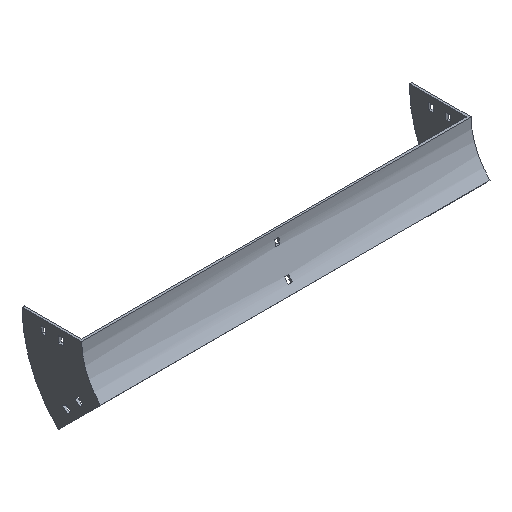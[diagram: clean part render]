
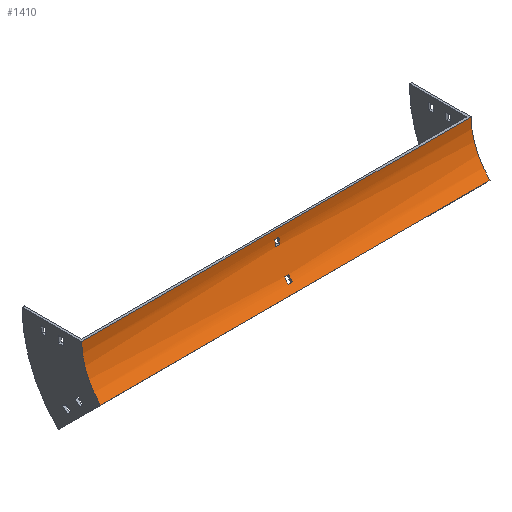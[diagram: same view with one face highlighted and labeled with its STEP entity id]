
A CAD part, isometric view. The second image highlights one B-rep face of the part: STEP entity #1410.
In plain terms, the highlighted cylindrical face has radius 100 mm (diameter 200 mm), a partial arc.
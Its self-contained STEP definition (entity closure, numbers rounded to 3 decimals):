
#2 = ORIENTED_EDGE ( 'NONE', *, *, #688, .F. ) ;
#50 = CARTESIAN_POINT ( 'NONE',  ( 302., -29.289, -70.711 ) ) ;
#64 = LINE ( 'NONE', #856, #1058 ) ;
#68 = LINE ( 'NONE', #697, #1265 ) ;
#110 = ORIENTED_EDGE ( 'NONE', *, *, #652, .F. ) ;
#117 = DIRECTION ( 'NONE',  ( 0., 0., 1. ) ) ;
#127 = CARTESIAN_POINT ( 'NONE',  ( 3.25, -2.23, -21. ) ) ;
#129 = DIRECTION ( 'NONE',  ( 1., 0., 0. ) ) ;
#135 = EDGE_LOOP ( 'NONE', ( #949, #1365, #828, #589 ) ) ;
#140 = CIRCLE ( 'NONE', #1342, 100. ) ;
#160 = DIRECTION ( 'NONE',  ( -1., 0., 0. ) ) ;
#196 = CARTESIAN_POINT ( 'NONE',  ( 302., -100., 0. ) ) ;
#202 = CARTESIAN_POINT ( 'NONE',  ( -3.25, -21.315, -61.714 ) ) ;
#203 = ORIENTED_EDGE ( 'NONE', *, *, #586, .T. ) ;
#225 = CIRCLE ( 'NONE', #410, 100. ) ;
#231 = FACE_BOUND ( 'NONE', #509, .T. ) ;
#232 = VERTEX_POINT ( 'NONE', #423 ) ;
#239 = EDGE_CURVE ( 'NONE', #885, #459, #946, .T. ) ;
#240 = CARTESIAN_POINT ( 'NONE',  ( 302., -100., 0. ) ) ;
#260 = DIRECTION ( 'NONE',  ( 0., 0., 1. ) ) ;
#273 = VERTEX_POINT ( 'NONE', #1478 ) ;
#290 = CARTESIAN_POINT ( 'NONE',  ( 302., -0.723, -12. ) ) ;
#334 = AXIS2_PLACEMENT_3D ( 'NONE', #541, #1112, #735 ) ;
#355 = CARTESIAN_POINT ( 'NONE',  ( 3.25, -21.315, -61.714 ) ) ;
#362 = CIRCLE ( 'NONE', #1644, 100. ) ;
#410 = AXIS2_PLACEMENT_3D ( 'NONE', #196, #1238, #460 ) ;
#421 = CARTESIAN_POINT ( 'NONE',  ( 302., 0., 0. ) ) ;
#423 = CARTESIAN_POINT ( 'NONE',  ( -3.25, -16.017, -54.285 ) ) ;
#436 = AXIS2_PLACEMENT_3D ( 'NONE', #1294, #1552, #552 ) ;
#442 = VERTEX_POINT ( 'NONE', #355 ) ;
#452 = AXIS2_PLACEMENT_3D ( 'NONE', #240, #501, #117 ) ;
#453 = DIRECTION ( 'NONE',  ( 1., 0., 0. ) ) ;
#459 = VERTEX_POINT ( 'NONE', #1151 ) ;
#460 = DIRECTION ( 'NONE',  ( 0., 0., 1. ) ) ;
#501 = DIRECTION ( 'NONE',  ( -1., 0., 0. ) ) ;
#503 = DIRECTION ( 'NONE',  ( 0., 0., 1. ) ) ;
#509 = EDGE_LOOP ( 'NONE', ( #600, #1092, #893, #988 ) ) ;
#536 = EDGE_CURVE ( 'NONE', #865, #1152, #1646, .T. ) ;
#541 = CARTESIAN_POINT ( 'NONE',  ( -3.25, -100., 0. ) ) ;
#548 = AXIS2_PLACEMENT_3D ( 'NONE', #1502, #582, #1122 ) ;
#552 = DIRECTION ( 'NONE',  ( 0., 0., 1. ) ) ;
#562 = CARTESIAN_POINT ( 'NONE',  ( -3.25, -2.23, -21. ) ) ;
#567 = DIRECTION ( 'NONE',  ( -1., 0., 0. ) ) ;
#582 = DIRECTION ( 'NONE',  ( -1., 0., 0. ) ) ;
#586 = EDGE_CURVE ( 'NONE', #599, #865, #935, .T. ) ;
#589 = ORIENTED_EDGE ( 'NONE', *, *, #1035, .T. ) ;
#599 = VERTEX_POINT ( 'NONE', #716 ) ;
#600 = ORIENTED_EDGE ( 'NONE', *, *, #1005, .F. ) ;
#629 = FACE_OUTER_BOUND ( 'NONE', #712, .T. ) ;
#641 = EDGE_CURVE ( 'NONE', #1655, #232, #68, .T. ) ;
#652 = EDGE_CURVE ( 'NONE', #273, #1152, #1258, .T. ) ;
#656 = CARTESIAN_POINT ( 'NONE',  ( -3.25, -0.723, -12. ) ) ;
#658 = VECTOR ( 'NONE', #160, 1000. ) ;
#688 = EDGE_CURVE ( 'NONE', #599, #273, #225, .T. ) ;
#693 = CARTESIAN_POINT ( 'NONE',  ( 3.25, -16.017, -54.285 ) ) ;
#697 = CARTESIAN_POINT ( 'NONE',  ( 302., -16.017, -54.285 ) ) ;
#712 = EDGE_LOOP ( 'NONE', ( #1162, #110, #2, #203 ) ) ;
#716 = CARTESIAN_POINT ( 'NONE',  ( 302., 0., 0. ) ) ;
#735 = DIRECTION ( 'NONE',  ( 0., 0., -1. ) ) ;
#742 = CARTESIAN_POINT ( 'NONE',  ( -3.25, -100., 0. ) ) ;
#771 = VECTOR ( 'NONE', #1228, 1000. ) ;
#816 = EDGE_CURVE ( 'NONE', #442, #1655, #362, .T. ) ;
#828 = ORIENTED_EDGE ( 'NONE', *, *, #239, .T. ) ;
#844 = EDGE_CURVE ( 'NONE', #1605, #885, #140, .T. ) ;
#856 = CARTESIAN_POINT ( 'NONE',  ( 302., -2.23, -21. ) ) ;
#865 = VERTEX_POINT ( 'NONE', #1174 ) ;
#874 = LINE ( 'NONE', #1555, #1631 ) ;
#884 = FACE_BOUND ( 'NONE', #135, .T. ) ;
#885 = VERTEX_POINT ( 'NONE', #656 ) ;
#893 = ORIENTED_EDGE ( 'NONE', *, *, #816, .F. ) ;
#894 = CARTESIAN_POINT ( 'NONE',  ( 3.25, -100., 0. ) ) ;
#935 = LINE ( 'NONE', #421, #658 ) ;
#946 = LINE ( 'NONE', #290, #1336 ) ;
#949 = ORIENTED_EDGE ( 'NONE', *, *, #1623, .T. ) ;
#988 = ORIENTED_EDGE ( 'NONE', *, *, #1202, .F. ) ;
#1005 = EDGE_CURVE ( 'NONE', #232, #1110, #1071, .T. ) ;
#1035 = EDGE_CURVE ( 'NONE', #459, #1375, #1293, .T. ) ;
#1058 = VECTOR ( 'NONE', #1518, 1000. ) ;
#1071 = CIRCLE ( 'NONE', #334, 100. ) ;
#1092 = ORIENTED_EDGE ( 'NONE', *, *, #641, .F. ) ;
#1110 = VERTEX_POINT ( 'NONE', #202 ) ;
#1112 = DIRECTION ( 'NONE',  ( -1., 0., 0. ) ) ;
#1122 = DIRECTION ( 'NONE',  ( 0., 0., -1. ) ) ;
#1140 = DIRECTION ( 'NONE',  ( 1., 0., 0. ) ) ;
#1151 = CARTESIAN_POINT ( 'NONE',  ( 3.25, -0.723, -12. ) ) ;
#1152 = VERTEX_POINT ( 'NONE', #1492 ) ;
#1162 = ORIENTED_EDGE ( 'NONE', *, *, #536, .T. ) ;
#1174 = CARTESIAN_POINT ( 'NONE',  ( -302., 0., 0. ) ) ;
#1202 = EDGE_CURVE ( 'NONE', #1110, #442, #874, .T. ) ;
#1228 = DIRECTION ( 'NONE',  ( -1., 0., 0. ) ) ;
#1238 = DIRECTION ( 'NONE',  ( -1., 0., 0. ) ) ;
#1258 = LINE ( 'NONE', #50, #771 ) ;
#1265 = VECTOR ( 'NONE', #567, 1000. ) ;
#1275 = DIRECTION ( 'NONE',  ( 1., 0., 0. ) ) ;
#1293 = CIRCLE ( 'NONE', #548, 100. ) ;
#1294 = CARTESIAN_POINT ( 'NONE',  ( -302., -100., 0. ) ) ;
#1336 = VECTOR ( 'NONE', #453, 1000. ) ;
#1342 = AXIS2_PLACEMENT_3D ( 'NONE', #742, #129, #503 ) ;
#1365 = ORIENTED_EDGE ( 'NONE', *, *, #844, .T. ) ;
#1375 = VERTEX_POINT ( 'NONE', #127 ) ;
#1410 = ADVANCED_FACE ( 'NONE', ( #629, #884, #231 ), #1565, .F. ) ;
#1478 = CARTESIAN_POINT ( 'NONE',  ( 302., -29.289, -70.711 ) ) ;
#1492 = CARTESIAN_POINT ( 'NONE',  ( -302., -29.289, -70.711 ) ) ;
#1502 = CARTESIAN_POINT ( 'NONE',  ( 3.25, -100., 0. ) ) ;
#1518 = DIRECTION ( 'NONE',  ( -1., 0., 0. ) ) ;
#1552 = DIRECTION ( 'NONE',  ( -1., 0., 0. ) ) ;
#1555 = CARTESIAN_POINT ( 'NONE',  ( 302., -21.315, -61.714 ) ) ;
#1565 = CYLINDRICAL_SURFACE ( 'NONE', #452, 100. ) ;
#1605 = VERTEX_POINT ( 'NONE', #562 ) ;
#1623 = EDGE_CURVE ( 'NONE', #1375, #1605, #64, .T. ) ;
#1631 = VECTOR ( 'NONE', #1140, 1000. ) ;
#1644 = AXIS2_PLACEMENT_3D ( 'NONE', #894, #1275, #260 ) ;
#1646 = CIRCLE ( 'NONE', #436, 100. ) ;
#1655 = VERTEX_POINT ( 'NONE', #693 ) ;
